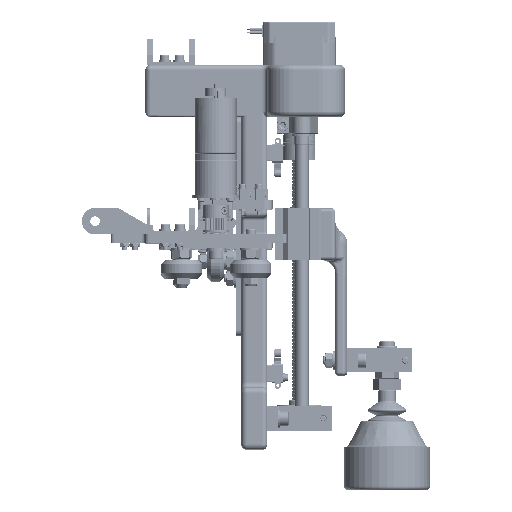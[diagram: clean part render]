
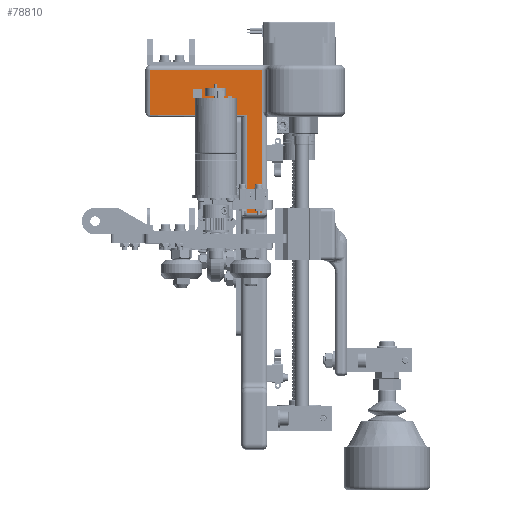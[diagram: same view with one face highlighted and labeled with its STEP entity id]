
A CAD part, top view. The second image highlights one B-rep face of the part: STEP entity #78810.
In plain terms, the highlighted planar face has unit normal (0, 0, 1).
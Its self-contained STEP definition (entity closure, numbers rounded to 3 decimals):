
#8532=FACE_OUTER_BOUND('',#13178,.T.);
#13178=EDGE_LOOP('',(#56355,#56356,#56357,#56358,#56359,#56360,#56361));
#18437=LINE('',#155979,#24002);
#18517=LINE('',#156439,#24082);
#18543=LINE('',#156539,#24108);
#18544=LINE('',#156542,#24109);
#18545=LINE('',#156546,#24110);
#18546=LINE('',#156547,#24111);
#18547=LINE('',#156548,#24112);
#24002=VECTOR('',#95313,10.);
#24082=VECTOR('',#95713,10.);
#24108=VECTOR('',#95811,10.);
#24109=VECTOR('',#95814,10.);
#24110=VECTOR('',#95819,10.);
#24111=VECTOR('',#95820,10.);
#24112=VECTOR('',#95821,10.);
#33520=VERTEX_POINT('',#155971);
#33522=VERTEX_POINT('',#155977);
#33585=VERTEX_POINT('',#156423);
#33591=VERTEX_POINT('',#156438);
#33621=VERTEX_POINT('',#156530);
#33622=VERTEX_POINT('',#156541);
#33623=VERTEX_POINT('',#156545);
#42005=EDGE_CURVE('',#33522,#33520,#18437,.T.);
#42162=EDGE_CURVE('',#33585,#33591,#18517,.T.);
#42209=EDGE_CURVE('',#33621,#33585,#18543,.T.);
#42210=EDGE_CURVE('',#33591,#33622,#18544,.T.);
#42212=EDGE_CURVE('',#33623,#33522,#18545,.T.);
#42213=EDGE_CURVE('',#33622,#33623,#18546,.T.);
#42214=EDGE_CURVE('',#33520,#33621,#18547,.T.);
#56355=ORIENTED_EDGE('',*,*,#42005,.F.);
#56356=ORIENTED_EDGE('',*,*,#42212,.F.);
#56357=ORIENTED_EDGE('',*,*,#42213,.F.);
#56358=ORIENTED_EDGE('',*,*,#42210,.F.);
#56359=ORIENTED_EDGE('',*,*,#42162,.F.);
#56360=ORIENTED_EDGE('',*,*,#42209,.F.);
#56361=ORIENTED_EDGE('',*,*,#42214,.F.);
#75844=PLANE('',#85197);
#78810=ADVANCED_FACE('',(#8532),#75844,.T.);
#85197=AXIS2_PLACEMENT_3D('',#156544,#95817,#95818);
#95313=DIRECTION('',(-1.,0.,0.));
#95713=DIRECTION('',(0.,1.,0.));
#95811=DIRECTION('',(-1.,0.,0.));
#95814=DIRECTION('',(1.,0.,0.));
#95817=DIRECTION('center_axis',(0.,0.,1.));
#95818=DIRECTION('ref_axis',(0.,-1.,0.));
#95819=DIRECTION('',(0.,-1.,0.));
#95820=DIRECTION('',(0.,-1.,0.));
#95821=DIRECTION('',(0.,1.,0.));
#155971=CARTESIAN_POINT('',(-2.,7.5,44.));
#155977=CARTESIAN_POINT('',(7.,7.5,44.));
#155979=CARTESIAN_POINT('',(-2.5,7.5,44.));
#156423=CARTESIAN_POINT('',(-57.725,64.5,44.));
#156438=CARTESIAN_POINT('',(-57.725,90.5,44.));
#156439=CARTESIAN_POINT('',(-57.725,71.,44.));
#156530=CARTESIAN_POINT('',(-2.,64.5,44.));
#156539=CARTESIAN_POINT('',(-1.5,64.5,44.));
#156541=CARTESIAN_POINT('',(7.,90.5,44.));
#156542=CARTESIAN_POINT('',(0.,90.5,44.));
#156544=CARTESIAN_POINT('Origin',(0.,63.5,44.));
#156545=CARTESIAN_POINT('',(7.,66.5,44.));
#156546=CARTESIAN_POINT('',(7.,31.75,44.));
#156547=CARTESIAN_POINT('',(7.,78.5,44.));
#156548=CARTESIAN_POINT('',(-2.,31.75,44.));
